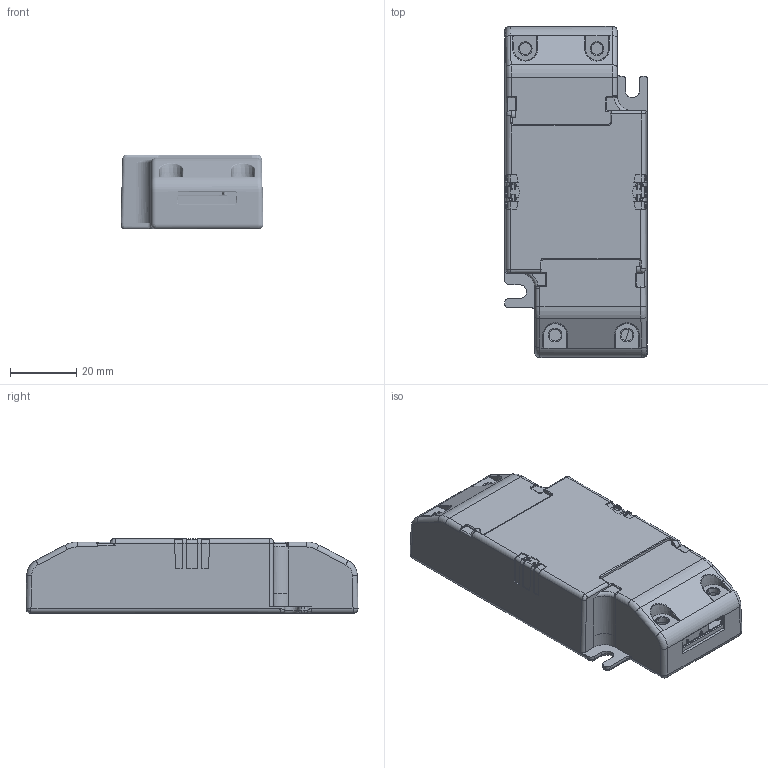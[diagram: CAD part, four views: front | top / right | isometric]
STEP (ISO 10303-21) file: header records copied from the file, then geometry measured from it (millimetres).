
FILE_DESCRIPTION((''),'2;1');
FILE_NAME('15011567_00','2017-10-08T',('elon.guo'),(''),'PRO/ENGINEER BY PARAMETRIC TECHNOLOGY CORPORATION, 2015200','PRO/ENGINEER BY PARAMETRIC TECHNOLOGY CORPORATION, 2015200','');
FILE_SCHEMA(('AUTOMOTIVE_DESIGN { 1 0 10303 214 1 1 1 1 }'));
Products named in the file (1): 15011567_00
Bounding box: 43.04 x 99.96 x 22.5 mm (x, y, z)
Volume: 22531.4 mm3; surface area: 33542.7 mm2
Topology: 1 solids, 1 shells, 6728 faces, 18181 edges, 11412 vertices
Faces by surface type: plane 2938, cylinder 1874, extrusion 788, bspline 709, sphere 245, torus 95, cone 79
Entity records: 300999 total; most frequent: CARTESIAN_POINT 90598, ORIENTED_EDGE 35802, DIRECTION 26644, PRESENTATION_STYLE_ASSIGNMENT 17902, STYLED_ITEM 17902, CURVE_STYLE 17901, EDGE_CURVE 17901, VERTEX_POINT 11412
